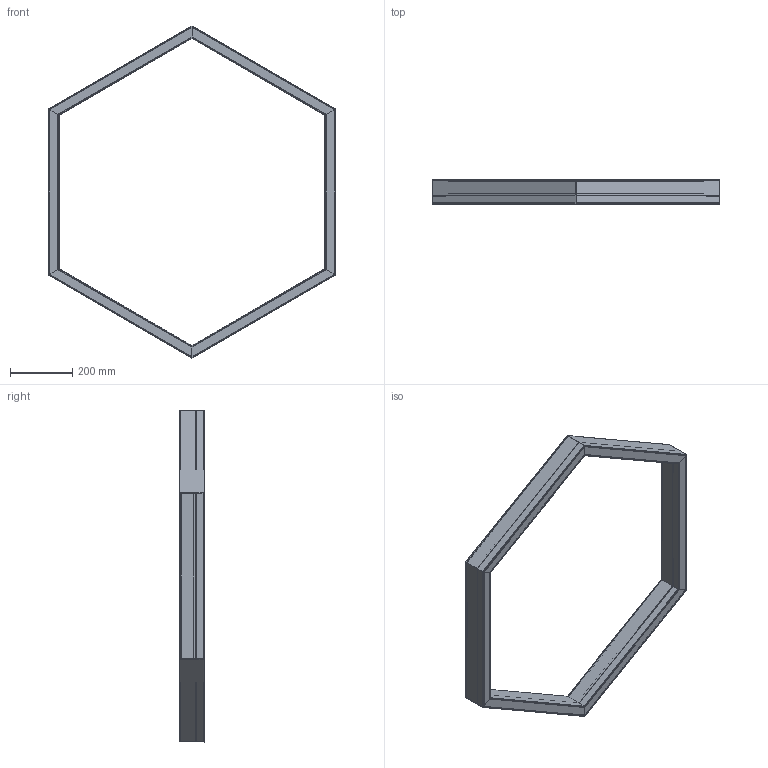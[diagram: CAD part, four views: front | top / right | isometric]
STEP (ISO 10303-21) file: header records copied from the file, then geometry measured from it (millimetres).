
FILE_DESCRIPTION(('STEP AP203'), '1');
FILE_NAME('Ìàòèê Ðèáèê 60Âò', '', ('UNSPECIFIED'), ('UNSPECIFIED'), 'ASCON STEP Converter 1.6', 'ASCON Math Kernel', '');
FILE_SCHEMA(('CONFIG_CONTROL_DESIGN'));
Length unit declared in the file: millimetre
Products named in the file (3): -01
Assembly tree (6 placements, depth 2):
  (unnamed)
    (unnamed)
    -01  x5
Bounding box: 923.18 x 80 x 1066 mm (x, y, z)
Volume: 1234836.3 mm3; surface area: 1932906.9 mm2
Topology: 13 solids, 13 shells, 1091 faces, 3187 edges, 2125 vertices
Faces by surface type: cylinder 593, plane 496, torus 2
Full cylindrical faces by diameter (mm): 8 x1, 10 x2, 14 x2
Entity records: 12421 total; most frequent: CARTESIAN_POINT 3363, ORIENTED_EDGE 2136, DIRECTION 1444, EDGE_CURVE 1068, VERTEX_POINT 716, LINE 664, VECTOR 664, AXIS2_PLACEMENT_3D 390
